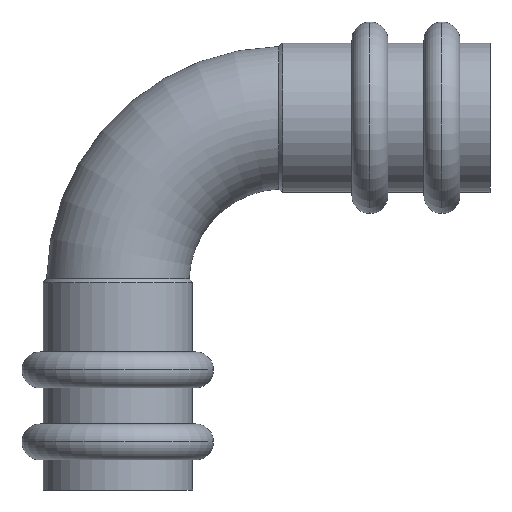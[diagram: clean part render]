
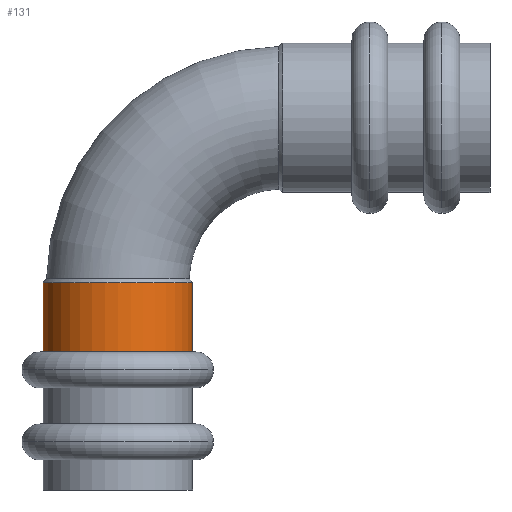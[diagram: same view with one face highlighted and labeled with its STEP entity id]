
A CAD part, front view. The second image highlights one B-rep face of the part: STEP entity #131.
In plain terms, the highlighted cylindrical face has radius 12.45 mm (diameter 24.9 mm), a partial arc.
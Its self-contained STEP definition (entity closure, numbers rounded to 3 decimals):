
#131=ADVANCED_FACE('',(#307),#308,.T.);
#307=FACE_OUTER_BOUND('',#543,.T.);
#308=CYLINDRICAL_SURFACE('',#544,12.45);
#543=EDGE_LOOP('',(#863,#864,#865,#866));
#544=AXIS2_PLACEMENT_3D('',#867,#868,#869);
#863=ORIENTED_EDGE('',*,*,#1356,.F.);
#864=ORIENTED_EDGE('',*,*,#1357,.T.);
#865=ORIENTED_EDGE('',*,*,#1358,.F.);
#866=ORIENTED_EDGE('',*,*,#1359,.F.);
#867=CARTESIAN_POINT('',(0.,0.0,28.75));
#868=DIRECTION('',(0.,0.0,-1.0));
#869=DIRECTION('',(1.0,0.0,0.));
#1356=EDGE_CURVE('',#1611,#1612,#1613,.T.);
#1357=EDGE_CURVE('',#1611,#1614,#1615,.T.);
#1358=EDGE_CURVE('',#1616,#1614,#1617,.T.);
#1359=EDGE_CURVE('',#1612,#1616,#1618,.T.);
#1611=VERTEX_POINT('',#2076);
#1612=VERTEX_POINT('',#2077);
#1613=LINE('',#2078,#2079);
#1614=VERTEX_POINT('',#2080);
#1615=CIRCLE('',#2081,12.45);
#1616=VERTEX_POINT('',#2082);
#1617=LINE('',#2083,#2084);
#1618=CIRCLE('',#2085,12.45);
#2076=CARTESIAN_POINT('',(12.45,0.,34.5));
#2077=CARTESIAN_POINT('',(12.45,0.,23.));
#2078=CARTESIAN_POINT('',(12.45,0.,28.75));
#2079=VECTOR('',#2596,1.0);
#2080=CARTESIAN_POINT('',(-12.45,0.,34.5));
#2081=AXIS2_PLACEMENT_3D('',#2597,#2598,#2599);
#2082=CARTESIAN_POINT('',(-12.45,0.,23.));
#2083=CARTESIAN_POINT('',(-12.45,0.,28.75));
#2084=VECTOR('',#2600,1.0);
#2085=AXIS2_PLACEMENT_3D('',#2601,#2602,#2603);
#2596=DIRECTION('',(0.,0.0,-1.0));
#2597=CARTESIAN_POINT('',(0.,0.0,34.5));
#2598=DIRECTION('',(0.,0.0,-1.0));
#2599=DIRECTION('',(1.0,0.0,0.));
#2600=DIRECTION('',(0.,-0.0,1.0));
#2601=CARTESIAN_POINT('',(0.,0.0,23.));
#2602=DIRECTION('',(0.,0.0,-1.0));
#2603=DIRECTION('',(1.0,0.0,0.));
